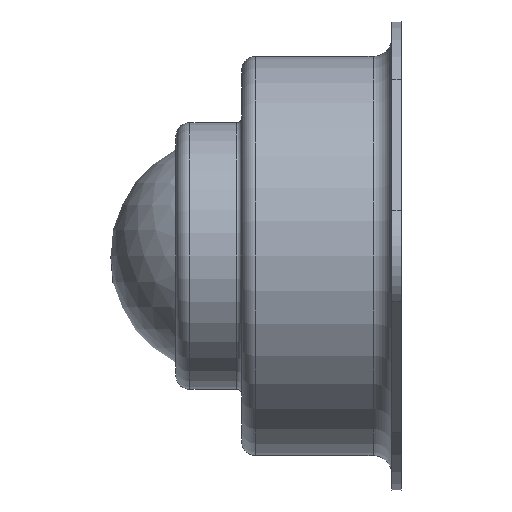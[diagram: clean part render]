
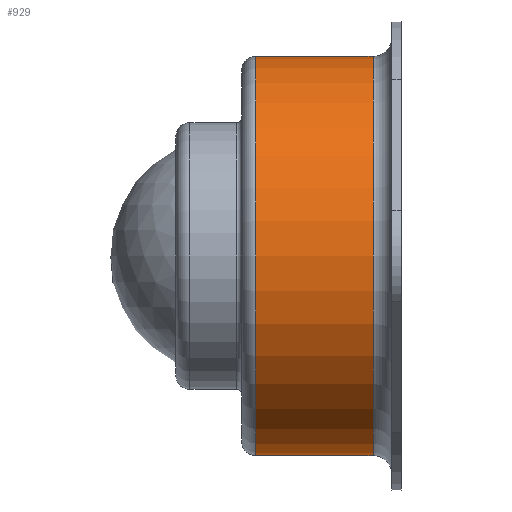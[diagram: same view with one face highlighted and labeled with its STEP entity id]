
A CAD part, left-side view. The second image highlights one B-rep face of the part: STEP entity #929.
In plain terms, the highlighted cylindrical face has radius 21.25 mm (diameter 42.5 mm), a full revolution.
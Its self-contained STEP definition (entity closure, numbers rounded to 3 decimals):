
#90=CIRCLE('',#1046,21.25);
#91=CIRCLE('',#1047,21.25);
#92=CIRCLE('',#1049,21.25);
#93=CIRCLE('',#1050,21.25);
#182=FACE_OUTER_BOUND('',#246,.T.);
#246=EDGE_LOOP('',(#772,#773,#774,#775,#776,#777));
#312=LINE('',#1884,#352);
#352=VECTOR('',#1301,21.25);
#442=VERTEX_POINT('',#1874);
#443=VERTEX_POINT('',#1876);
#444=VERTEX_POINT('',#1880);
#445=VERTEX_POINT('',#1881);
#565=EDGE_CURVE('',#443,#442,#90,.T.);
#566=EDGE_CURVE('',#442,#443,#91,.T.);
#567=EDGE_CURVE('',#444,#445,#92,.T.);
#568=EDGE_CURVE('',#445,#444,#93,.T.);
#569=EDGE_CURVE('',#445,#443,#312,.T.);
#772=ORIENTED_EDGE('',*,*,#567,.F.);
#773=ORIENTED_EDGE('',*,*,#568,.F.);
#774=ORIENTED_EDGE('',*,*,#569,.T.);
#775=ORIENTED_EDGE('',*,*,#565,.T.);
#776=ORIENTED_EDGE('',*,*,#566,.T.);
#777=ORIENTED_EDGE('',*,*,#569,.F.);
#888=CYLINDRICAL_SURFACE('',#1048,21.25);
#929=ADVANCED_FACE('',(#182),#888,.T.);
#1046=AXIS2_PLACEMENT_3D('',#1877,#1291,#1292);
#1047=AXIS2_PLACEMENT_3D('',#1878,#1293,#1294);
#1048=AXIS2_PLACEMENT_3D('',#1879,#1295,#1296);
#1049=AXIS2_PLACEMENT_3D('',#1882,#1297,#1298);
#1050=AXIS2_PLACEMENT_3D('',#1883,#1299,#1300);
#1291=DIRECTION('center_axis',(0.,1.,0.));
#1292=DIRECTION('ref_axis',(1.,0.,0.));
#1293=DIRECTION('center_axis',(0.,1.,0.));
#1294=DIRECTION('ref_axis',(1.,0.,0.));
#1295=DIRECTION('center_axis',(0.,1.,0.));
#1296=DIRECTION('ref_axis',(-1.,0.,0.));
#1297=DIRECTION('center_axis',(0.,1.,0.));
#1298=DIRECTION('ref_axis',(1.,0.,0.));
#1299=DIRECTION('center_axis',(0.,1.,0.));
#1300=DIRECTION('ref_axis',(1.,0.,0.));
#1301=DIRECTION('',(0.,-1.,0.));
#1874=CARTESIAN_POINT('',(0.,3.,-21.25));
#1876=CARTESIAN_POINT('',(21.25,3.,0.));
#1877=CARTESIAN_POINT('Origin',(0.,3.,0.));
#1878=CARTESIAN_POINT('Origin',(0.,3.,0.));
#1879=CARTESIAN_POINT('Origin',(0.,9.25,0.));
#1880=CARTESIAN_POINT('',(0.,15.5,-21.25));
#1881=CARTESIAN_POINT('',(21.25,15.5,0.));
#1882=CARTESIAN_POINT('Origin',(0.,15.5,0.));
#1883=CARTESIAN_POINT('Origin',(0.,15.5,0.));
#1884=CARTESIAN_POINT('',(21.25,9.25,0.));
